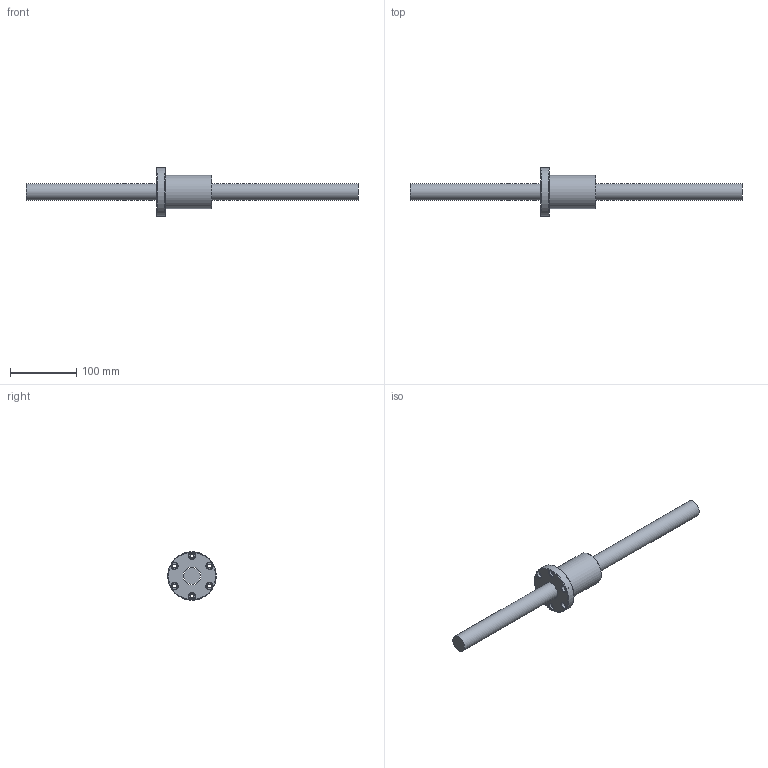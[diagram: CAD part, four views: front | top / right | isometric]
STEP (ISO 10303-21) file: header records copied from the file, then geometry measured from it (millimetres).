
FILE_DESCRIPTION (( 'STEP AP203' ), '1' );
FILE_NAME ('SFV02525N-1.8.step', '2024-05-20T03:38:39', ( '' ), ( '' ), 'SwSTEP 2.0', 'SolidWorks 2022', '' );
FILE_SCHEMA (( 'CONFIG_CONTROL_DESIGN' ));
Length unit declared in the file: millimetre
Products named in the file (1): SFV02525N-1.8
Bounding box: 500 x 73 x 73 mm (x, y, z)
Volume: 385183.5 mm3; surface area: 70012 mm2
Topology: 2 solids, 2 shells, 59 faces, 147 edges, 94 vertices
Faces by surface type: cylinder 24, cone 13, plane 12, bspline 7, torus 3
Full cylindrical faces by diameter (mm): 4 x1, 5.5 x6, 7 x6, 9.5 x6, 25 x1, 27.1 x1, 50 x1, 73 x1
Entity records: 3700 total; most frequent: CARTESIAN_POINT 2632, DIRECTION 204, ORIENTED_EDGE 154, EDGE_LOOP 105, AXIS2_PLACEMENT_3D 101, EDGE_CURVE 77, FACE_OUTER_BOUND 74, VERTEX_POINT 66
